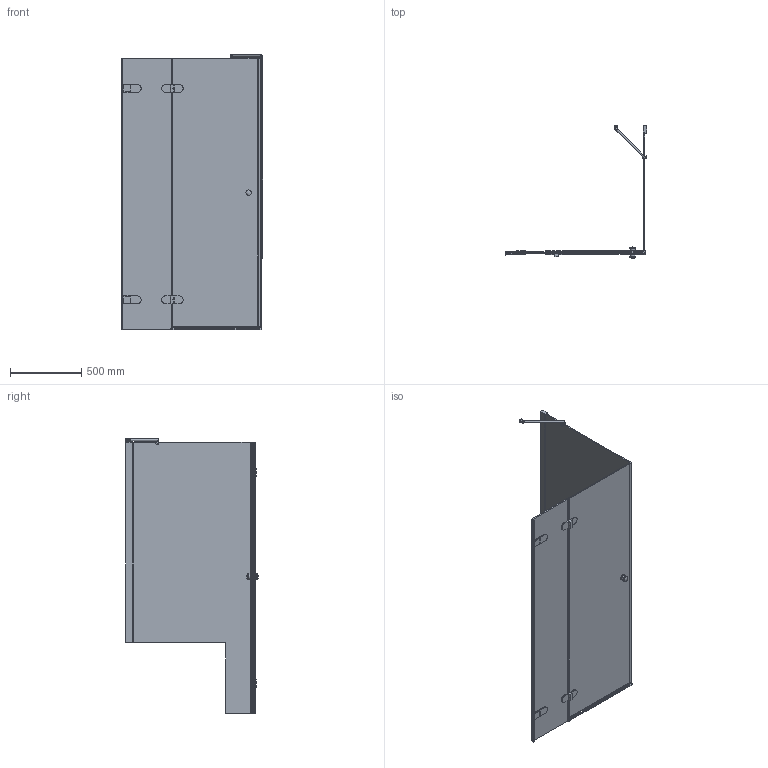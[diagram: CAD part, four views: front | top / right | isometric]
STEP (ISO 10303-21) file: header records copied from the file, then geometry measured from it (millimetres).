
FILE_DESCRIPTION(/* description */ (''),/* implementation_level */ '2;1');
FILE_NAME(/* name */ 'E:\Работа\Сергей\Душевые кабинки\! Работа\LUX SQUARE GK-003V1P-2522\LUX SQUARE GK-003V1P-2522 левая модель\LUX SQUARE GK-003V1P-2522 ЛЕВАЯ-3D.stp',/* time_stamp */ '2017-06-06T08:09:37+03:00',/* author */ ('PC'),/* organization */ (''),/* preprocessor_version */ 'ST-DEVELOPER v15.2',/* originating_system */ 'Autodesk Inventor 2014',/* authorisation */ '');
FILE_SCHEMA (('AUTOMOTIVE_DESIGN { 1 0 10303 214 3 1 1 }'));
Length unit declared in the file: millimetre
Products named in the file (1): LUX SQUARE GK-003V1P-2522 ЛЕВАЯ-
3D
Bounding box: 991.16 x 927.14 x 1931.49 mm (x, y, z)
Volume: 24960854.4 mm3; surface area: 6786270.7 mm2
Topology: 4 solids, 4 shells, 605 faces, 1482 edges, 915 vertices
Faces by surface type: plane 432, cylinder 149, torus 14, sphere 6, bspline 4
Full cylindrical faces by diameter (mm): 12 x1, 15 x1, 20 x2, 26 x1, 38 x4
Entity records: 18353 total; most frequent: CARTESIAN_POINT 3496, DIRECTION 2930, ORIENTED_EDGE 2914, EDGE_CURVE 1457, LINE 1098, VECTOR 1098, AXIS2_PLACEMENT_3D 916, VERTEX_POINT 905
